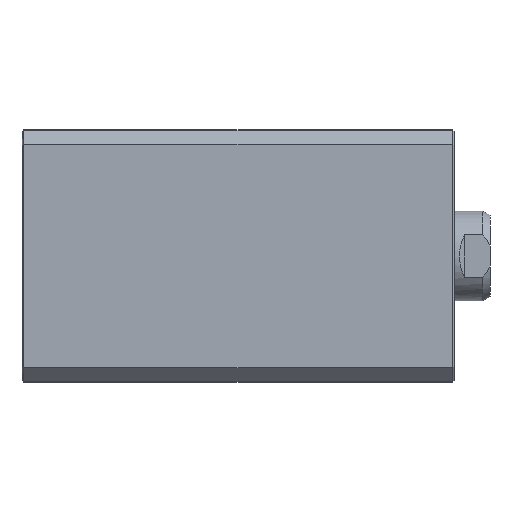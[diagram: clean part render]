
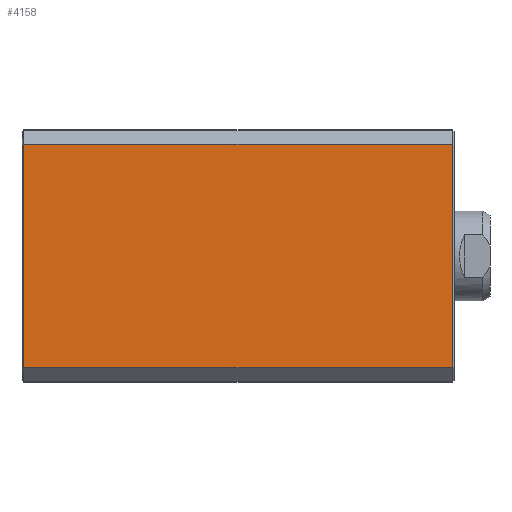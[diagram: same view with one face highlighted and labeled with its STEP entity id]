
A CAD part, left-side view. The second image highlights one B-rep face of the part: STEP entity #4158.
In plain terms, the highlighted planar face has unit normal (-1, 0, 0).
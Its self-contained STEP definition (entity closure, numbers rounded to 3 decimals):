
#132=LINE('',#5833,#426);
#134=LINE('',#5837,#428);
#135=LINE('',#5839,#429);
#136=LINE('',#5841,#430);
#426=VECTOR('',#4779,1000.);
#428=VECTOR('',#4783,1000.);
#429=VECTOR('',#4784,1000.);
#430=VECTOR('',#4785,1000.);
#927=ORIENTED_EDGE('',*,*,#1612,.F.);
#928=ORIENTED_EDGE('',*,*,#1614,.T.);
#929=ORIENTED_EDGE('',*,*,#1615,.T.);
#930=ORIENTED_EDGE('',*,*,#1616,.T.);
#1612=EDGE_CURVE('',#1964,#1965,#132,.T.);
#1614=EDGE_CURVE('',#1964,#1966,#134,.T.);
#1615=EDGE_CURVE('',#1966,#1967,#135,.T.);
#1616=EDGE_CURVE('',#1967,#1965,#136,.T.);
#1964=VERTEX_POINT('',#5832);
#1965=VERTEX_POINT('',#5834);
#1966=VERTEX_POINT('',#5838);
#1967=VERTEX_POINT('',#5840);
#2254=EDGE_LOOP('',(#927,#928,#929,#930));
#2492=FACE_BOUND('',#2254,.T.);
#2675=PLANE('',#4383);
#4158=ADVANCED_FACE('',(#2492),#2675,.T.);
#4383=AXIS2_PLACEMENT_3D('',#5836,#4781,#4782);
#4779=DIRECTION('',(0.,-1.,0.));
#4781=DIRECTION('',(-1.,0.,0.));
#4782=DIRECTION('',(0.,0.,1.));
#4783=DIRECTION('',(0.,0.,-1.));
#4784=DIRECTION('',(0.,-1.,0.));
#4785=DIRECTION('',(0.,0.,1.));
#5832=CARTESIAN_POINT('',(-35.,119.5,31.));
#5833=CARTESIAN_POINT('',(-35.,80.,31.));
#5834=CARTESIAN_POINT('',(-35.,0.5,31.));
#5836=CARTESIAN_POINT('',(-35.,80.,31.));
#5837=CARTESIAN_POINT('',(-35.,119.5,31.));
#5838=CARTESIAN_POINT('',(-35.,119.5,-31.));
#5839=CARTESIAN_POINT('',(-35.,80.,-31.));
#5840=CARTESIAN_POINT('',(-35.,0.5,-31.));
#5841=CARTESIAN_POINT('',(-35.,0.5,31.));
